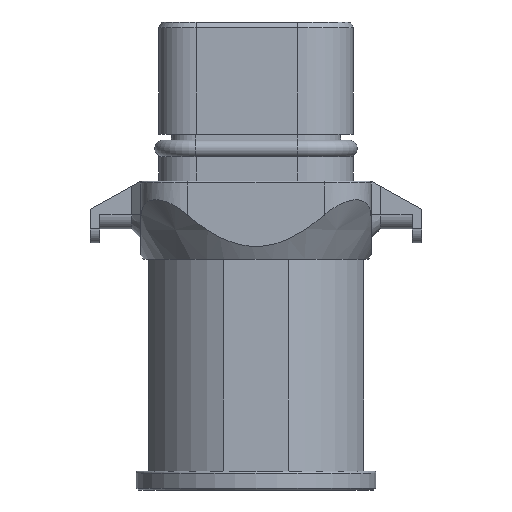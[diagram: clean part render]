
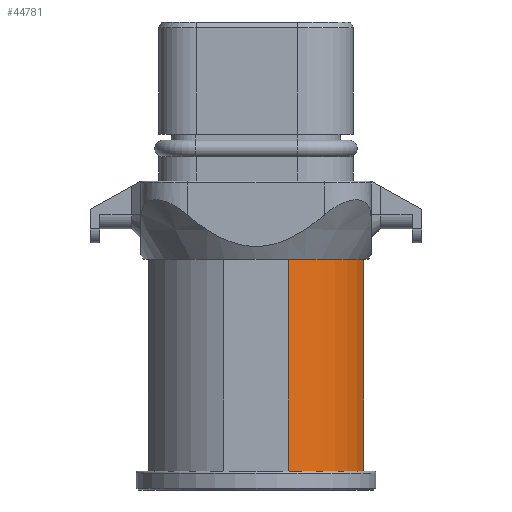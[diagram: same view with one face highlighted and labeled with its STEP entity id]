
A CAD part, front view. The second image highlights one B-rep face of the part: STEP entity #44781.
In plain terms, the highlighted cylindrical face has radius 12 mm (diameter 24 mm), a partial arc.
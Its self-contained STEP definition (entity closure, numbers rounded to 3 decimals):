
#1040 = FACE_OUTER_BOUND ( 'NONE', #25568, .T. ) ;
#3053 = CARTESIAN_POINT ( 'NONE',  ( 11.5, -3.428, -48. ) ) ;
#3903 = VERTEX_POINT ( 'NONE', #26271 ) ;
#5747 = CARTESIAN_POINT ( 'NONE',  ( 0., 0., -48. ) ) ;
#6351 = ORIENTED_EDGE ( 'NONE', *, *, #16967, .F. ) ;
#7197 = VERTEX_POINT ( 'NONE', #3053 ) ;
#7267 = DIRECTION ( 'NONE',  ( 0., -1., 0. ) ) ;
#8976 = CIRCLE ( 'NONE', #28226, 12. ) ;
#10016 = CARTESIAN_POINT ( 'NONE',  ( 0., 0., -25.369 ) ) ;
#10727 = ORIENTED_EDGE ( 'NONE', *, *, #13262, .T. ) ;
#13262 = EDGE_CURVE ( 'NONE', #7197, #26639, #15347, .T. ) ;
#13724 = DIRECTION ( 'NONE',  ( 0., -1., 0. ) ) ;
#14657 = DIRECTION ( 'NONE',  ( 0., 0., 1. ) ) ;
#15132 = EDGE_CURVE ( 'NONE', #3903, #7197, #8976, .T. ) ;
#15347 = LINE ( 'NONE', #18859, #43034 ) ;
#16967 = EDGE_CURVE ( 'NONE', #29472, #26639, #30532, .T. ) ;
#18859 = CARTESIAN_POINT ( 'NONE',  ( 11.5, -3.428, -7.42 ) ) ;
#19909 = DIRECTION ( 'NONE',  ( 0., 0., 1. ) ) ;
#20908 = AXIS2_PLACEMENT_3D ( 'NONE', #10016, #38319, #13724 ) ;
#20941 = DIRECTION ( 'NONE',  ( 0., 0., -1. ) ) ;
#21623 = VECTOR ( 'NONE', #20941, 1000. ) ;
#22660 = CARTESIAN_POINT ( 'NONE',  ( 11.5, -3.428, -25.369 ) ) ;
#25568 = EDGE_LOOP ( 'NONE', ( #6351, #26032, #43938, #10727 ) ) ;
#26032 = ORIENTED_EDGE ( 'NONE', *, *, #45855, .T. ) ;
#26271 = CARTESIAN_POINT ( 'NONE',  ( 3.428, -11.5, -48. ) ) ;
#26639 = VERTEX_POINT ( 'NONE', #22660 ) ;
#27860 = CARTESIAN_POINT ( 'NONE',  ( 3.428, -11.5, -7.42 ) ) ;
#28226 = AXIS2_PLACEMENT_3D ( 'NONE', #5747, #19909, #34034 ) ;
#29472 = VERTEX_POINT ( 'NONE', #40851 ) ;
#30532 = CIRCLE ( 'NONE', #20908, 12. ) ;
#30895 = LINE ( 'NONE', #27860, #21623 ) ;
#31839 = CYLINDRICAL_SURFACE ( 'NONE', #43072, 12. ) ;
#34034 = DIRECTION ( 'NONE',  ( 0., -1., 0. ) ) ;
#38319 = DIRECTION ( 'NONE',  ( 0., 0., 1. ) ) ;
#39721 = DIRECTION ( 'NONE',  ( 0., 0., 1. ) ) ;
#40851 = CARTESIAN_POINT ( 'NONE',  ( 3.428, -11.5, -25.369 ) ) ;
#42978 = CARTESIAN_POINT ( 'NONE',  ( 0., 0., -7.42 ) ) ;
#43034 = VECTOR ( 'NONE', #14657, 1000. ) ;
#43072 = AXIS2_PLACEMENT_3D ( 'NONE', #42978, #39721, #7267 ) ;
#43938 = ORIENTED_EDGE ( 'NONE', *, *, #15132, .T. ) ;
#44781 = ADVANCED_FACE ( 'NONE', ( #1040 ), #31839, .T. ) ;
#45855 = EDGE_CURVE ( 'NONE', #29472, #3903, #30895, .T. ) ;
